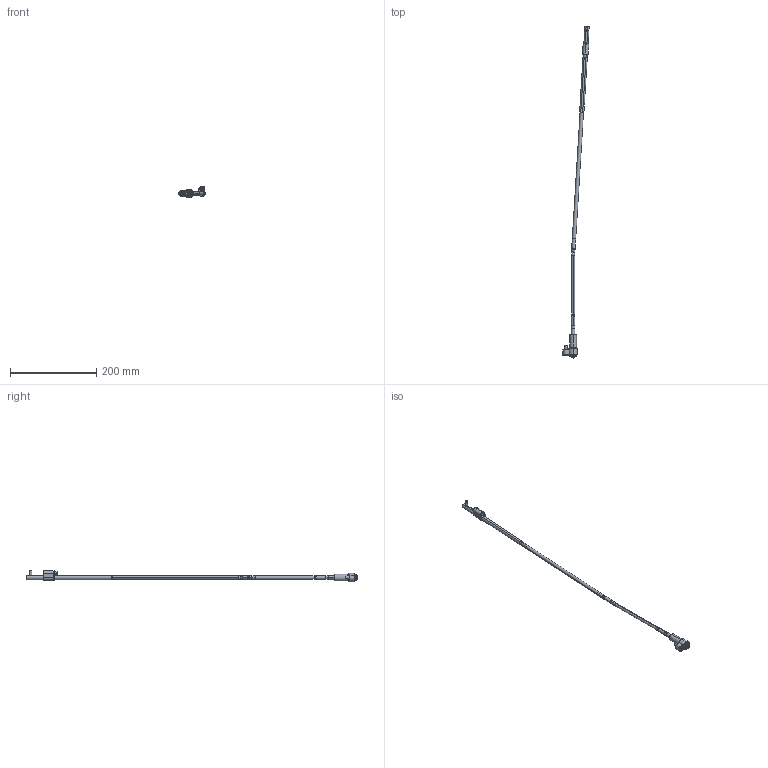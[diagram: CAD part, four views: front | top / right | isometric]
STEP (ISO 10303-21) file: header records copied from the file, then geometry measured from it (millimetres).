
FILE_DESCRIPTION (( 'STEP AP214' ), '1' );
FILE_NAME ('WL080125-INJ 3,5°.STEP', '2021-03-19T15:31:02', ( '' ), ( '' ), 'SwSTEP 2.0', 'SolidWorks 2019', '' );
FILE_SCHEMA (( 'AUTOMOTIVE_DESIGN' ));
Length unit declared in the file: millimetre
Products named in the file (17): WL080125-INJ 3,5°; Web-WL08-A2; Web-WL08XX-A7_OFF-WL080125-3,5; WL080100-D; WL080100-C; 1DIN912616_DIN 912 M6 x 16 --- 16C; WL080100-E; 1DIN912545_DIN 912 M5 x 50 --- 50C; Web-WL08-F00.SLDPRT; Web-WP08-1; Web-WL08-A3; 9DR2206-TOR; WL080100-B_WL0800FF; Web-WL08-F01; WL080100-B1_WL0800FF-1; 3IMAN4X2-150_con sello; Web-WL08-A1
Assembly tree (16 placements, depth 3):
  WL080125-INJ 3,5°
    Web-WP08-1
    Web-WL08XX-A7_OFF-WL080125-3,5
    Web-WL08-A3
    Web-WL08-A2
    Web-WL08-A1
    WL080100-D
    WL080100-C
    WL080100-B_WL0800FF
      WL080100-B1_WL0800FF-1
      3IMAN4X2-150_con sello
    WL080100-E
    9DR2206-TOR
    Web-WL08-F00.SLDPRT
      Web-WL08-F01
      1DIN912545_DIN 912 M5 x 50 --- 50C
      1DIN912616_DIN 912 M6 x 16 --- 16C
Bounding box: 61.18 x 771.3 x 26.9 mm (x, y, z)
Volume: 58701.7 mm3; surface area: 34416 mm2
Topology: 15 solids, 15 shells, 424 faces, 888 edges, 516 vertices
Faces by surface type: plane 132, cylinder 128, cone 116, torus 48
Entity records: 13492 total; most frequent: DIRECTION 2218, CARTESIAN_POINT 2045, ORIENTED_EDGE 1756, AXIS2_PLACEMENT_3D 921, EDGE_CURVE 878, VERTEX_POINT 516, CIRCLE 476, EDGE_LOOP 468
